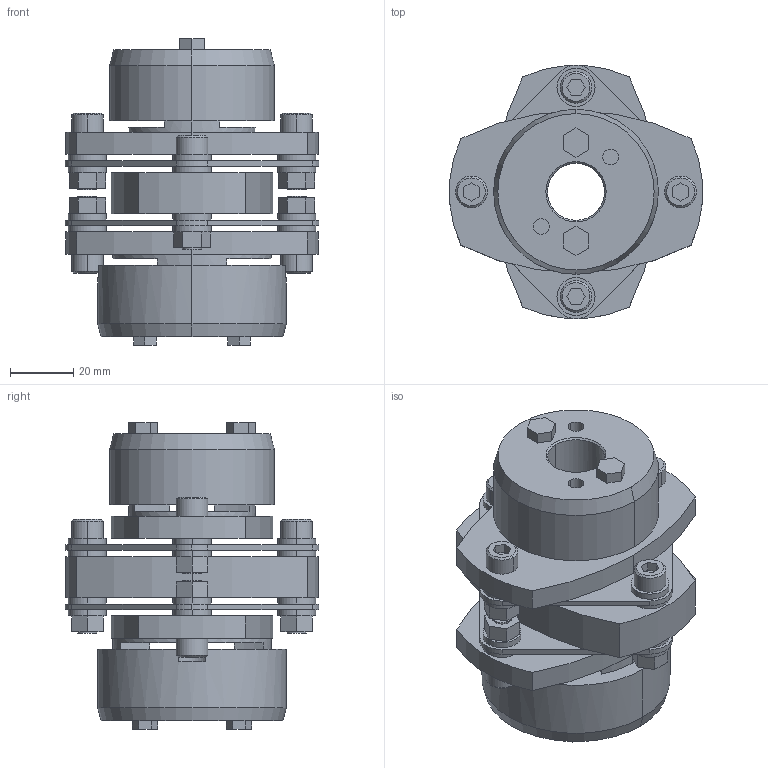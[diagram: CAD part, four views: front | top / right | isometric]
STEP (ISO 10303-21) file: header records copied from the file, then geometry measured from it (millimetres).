
FILE_DESCRIPTION((''),'2;1');
FILE_NAME('LCD-80T7-18×30.stp','2011-09-15T13:20:36',(''),(''),'AutoCAD STEP 2000i','AutoCAD 2000i',', , ');
FILE_SCHEMA(('CONFIG_CONTROL_DESIGN'));
Length unit declared in the file: millimetre
Products named in the file (10): LCD-80T7-17×30; 忣兜1; LC80T7-T030; LC80T7-T028; LC80T7-T024; LC80T7-T022; LC80T7-T019; LC80T7-T017-1; LC80T7-T017; LCD80-ITA
Assembly tree (9 placements, depth 2):
  LCD-80T7-17×30
    忣兜1
    LC80T7-T030
    LC80T7-T028
    LC80T7-T024
    LC80T7-T022
    LC80T7-T019
    LC80T7-T017-1
    LC80T7-T017
    LCD80-ITA
Bounding box: 80 x 79.95 x 96.8 mm (x, y, z)
Volume: 184250.3 mm3; surface area: 57944.6 mm2
Topology: 1 solids, 1 shells, 324 faces, 792 edges, 520 vertices
Faces by surface type: plane 178, cylinder 122, cone 24
Entity records: 9845 total; most frequent: DIRECTION 1748, CARTESIAN_POINT 1646, ORIENTED_EDGE 1584, EDGE_CURVE 792, AXIS2_PLACEMENT_3D 622, VERTEX_POINT 520, VECTOR 504, LINE 504
